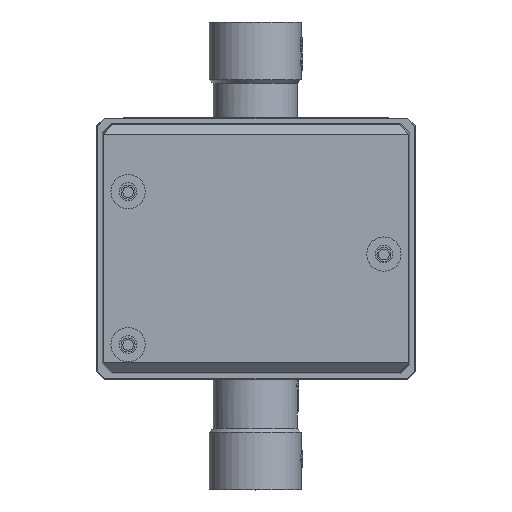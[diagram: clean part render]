
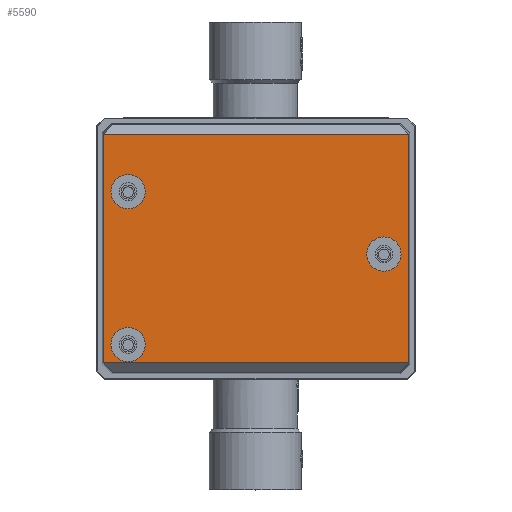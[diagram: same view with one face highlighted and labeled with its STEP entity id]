
A CAD part, top view. The second image highlights one B-rep face of the part: STEP entity #5590.
In plain terms, the highlighted planar face has unit normal (0, 0, 1).
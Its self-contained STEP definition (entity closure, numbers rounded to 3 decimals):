
#2391=PLANE('',#19494);
#3084=LINE('',#26658,#4336);
#3090=LINE('',#26677,#4342);
#3091=LINE('',#26679,#4343);
#3092=LINE('',#26681,#4344);
#3093=LINE('',#26683,#4345);
#3094=LINE('',#26685,#4346);
#3095=LINE('',#26687,#4347);
#3096=LINE('',#26689,#4348);
#4336=VECTOR('',#21612,1.);
#4342=VECTOR('',#21628,1.);
#4343=VECTOR('',#21629,1.);
#4344=VECTOR('',#21630,1.);
#4345=VECTOR('',#21631,1.);
#4346=VECTOR('',#21632,1.);
#4347=VECTOR('',#21633,1.);
#4348=VECTOR('',#21634,1.);
#5590=ADVANCED_FACE('',(#6784,#6785,#6786,#6787),#2391,.T.);
#6784=FACE_BOUND('',#7082,.T.);
#6785=FACE_BOUND('',#7083,.T.);
#6786=FACE_BOUND('',#7084,.T.);
#6787=FACE_BOUND('',#7085,.T.);
#7082=EDGE_LOOP('',(#8635));
#7083=EDGE_LOOP('',(#8636));
#7084=EDGE_LOOP('',(#8637));
#7085=EDGE_LOOP('',(#8638,#8639,#8640,#8641,#8642,#8643,#8644,#8645));
#8635=ORIENTED_EDGE('',*,*,#16055,.T.);
#8636=ORIENTED_EDGE('',*,*,#16056,.T.);
#8637=ORIENTED_EDGE('',*,*,#16057,.T.);
#8638=ORIENTED_EDGE('',*,*,#16049,.F.);
#8639=ORIENTED_EDGE('',*,*,#16058,.T.);
#8640=ORIENTED_EDGE('',*,*,#16059,.T.);
#8641=ORIENTED_EDGE('',*,*,#16060,.T.);
#8642=ORIENTED_EDGE('',*,*,#16061,.F.);
#8643=ORIENTED_EDGE('',*,*,#16062,.T.);
#8644=ORIENTED_EDGE('',*,*,#16063,.T.);
#8645=ORIENTED_EDGE('',*,*,#16064,.T.);
#14158=VERTEX_POINT('',#26657);
#14159=VERTEX_POINT('',#26659);
#14164=VERTEX_POINT('',#26672);
#14165=VERTEX_POINT('',#26674);
#14166=VERTEX_POINT('',#26676);
#14167=VERTEX_POINT('',#26678);
#14168=VERTEX_POINT('',#26680);
#14169=VERTEX_POINT('',#26682);
#14170=VERTEX_POINT('',#26684);
#14171=VERTEX_POINT('',#26686);
#14172=VERTEX_POINT('',#26688);
#16049=EDGE_CURVE('',#14158,#14159,#3084,.T.);
#16055=EDGE_CURVE('',#14164,#14164,#18700,.T.);
#16056=EDGE_CURVE('',#14165,#14165,#18701,.T.);
#16057=EDGE_CURVE('',#14166,#14166,#18702,.T.);
#16058=EDGE_CURVE('',#14158,#14167,#3090,.T.);
#16059=EDGE_CURVE('',#14167,#14168,#3091,.T.);
#16060=EDGE_CURVE('',#14168,#14169,#3092,.T.);
#16061=EDGE_CURVE('',#14170,#14169,#3093,.T.);
#16062=EDGE_CURVE('',#14170,#14171,#3094,.T.);
#16063=EDGE_CURVE('',#14171,#14172,#3095,.T.);
#16064=EDGE_CURVE('',#14172,#14159,#3096,.T.);
#18700=CIRCLE('',#19491,5.5);
#18701=CIRCLE('',#19492,5.5);
#18702=CIRCLE('',#19493,5.5);
#19491=AXIS2_PLACEMENT_3D('',#26671,#21622,#21623);
#19492=AXIS2_PLACEMENT_3D('',#26673,#21624,#21625);
#19493=AXIS2_PLACEMENT_3D('',#26675,#21626,#21627);
#19494=AXIS2_PLACEMENT_3D('',#26690,#21635,#21636);
#21612=DIRECTION('',(0.,1.,0.));
#21622=DIRECTION('',(0.,0.,-1.));
#21623=DIRECTION('',(1.,0.,0.));
#21624=DIRECTION('',(0.,0.,-1.));
#21625=DIRECTION('',(1.,0.,0.));
#21626=DIRECTION('',(0.,0.,-1.));
#21627=DIRECTION('',(1.,0.,0.));
#21628=DIRECTION('',(0.707,-0.707,0.));
#21629=DIRECTION('',(1.,0.,0.));
#21630=DIRECTION('',(0.707,0.707,0.));
#21631=DIRECTION('',(0.,-1.,0.));
#21632=DIRECTION('',(-0.707,0.707,0.));
#21633=DIRECTION('',(-1.,0.,0.));
#21634=DIRECTION('',(-0.707,-0.707,0.));
#21635=DIRECTION('',(0.,0.,1.));
#21636=DIRECTION('',(-1.,0.,0.));
#26657=CARTESIAN_POINT('',(-48.896,-34.894,210.));
#26658=CARTESIAN_POINT('',(-48.896,41.85,210.));
#26659=CARTESIAN_POINT('',(-48.896,38.394,210.));
#26671=CARTESIAN_POINT('',(41.,0.,210.));
#26672=CARTESIAN_POINT('',(46.5,0.,210.));
#26673=CARTESIAN_POINT('',(-41.,20.,210.));
#26674=CARTESIAN_POINT('',(-35.5,20.,210.));
#26675=CARTESIAN_POINT('',(-41.,-29.,210.));
#26676=CARTESIAN_POINT('',(-35.5,-29.,210.));
#26677=CARTESIAN_POINT('',(-42.77,-41.02,210.));
#26678=CARTESIAN_POINT('',(-48.894,-34.896,210.));
#26679=CARTESIAN_POINT('',(0.,-34.896,210.));
#26680=CARTESIAN_POINT('',(48.894,-34.896,210.));
#26681=CARTESIAN_POINT('',(42.77,-41.02,210.));
#26682=CARTESIAN_POINT('',(48.896,-34.894,210.));
#26683=CARTESIAN_POINT('',(48.896,41.85,210.));
#26684=CARTESIAN_POINT('',(48.896,38.394,210.));
#26685=CARTESIAN_POINT('',(42.77,44.52,210.));
#26686=CARTESIAN_POINT('',(48.894,38.396,210.));
#26687=CARTESIAN_POINT('',(0.,38.396,210.));
#26688=CARTESIAN_POINT('',(-48.894,38.396,210.));
#26689=CARTESIAN_POINT('',(-42.77,44.52,210.));
#26690=CARTESIAN_POINT('',(0.,1.75,210.));
